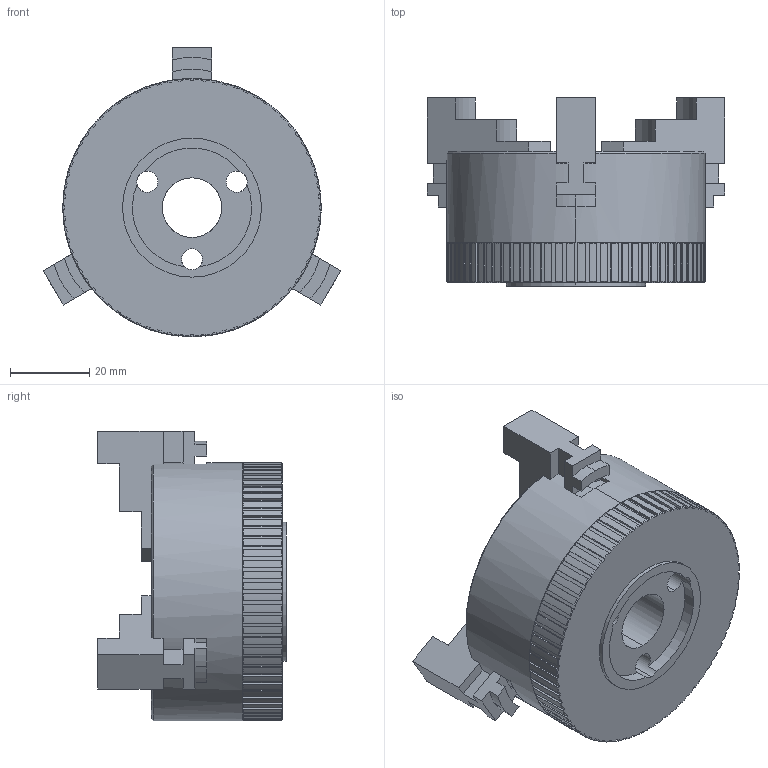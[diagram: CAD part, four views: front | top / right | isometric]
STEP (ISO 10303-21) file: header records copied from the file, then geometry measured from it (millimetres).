
FILE_DESCRIPTION (( 'STEP AP203' ), '1' );
FILE_NAME ('IUX65_3-30-M2-Spannfutter.STEP', '2017-08-28T13:50:08', ( '' ), ( '' ), 'SwSTEP 2.0', 'SolidWorks 2016', '' );
FILE_SCHEMA (( 'CONFIG_CONTROL_DESIGN' ));
Length unit declared in the file: millimetre
Products named in the file (1): IUX65_3-30-M2-Spannfutter
Bounding box: 74.91 x 47.5 x 72.86 mm (x, y, z)
Volume: 95938.6 mm3; surface area: 28143.1 mm2
Topology: 1 solids, 11 shells, 671 faces, 1922 edges, 1275 vertices
Faces by surface type: plane 366, cylinder 157, cone 148
Entity records: 22158 total; most frequent: CARTESIAN_POINT 4319, ORIENTED_EDGE 3844, DIRECTION 3623, EDGE_CURVE 1922, VERTEX_POINT 1275, LINE 1265, VECTOR 1265, AXIS2_PLACEMENT_3D 1179
